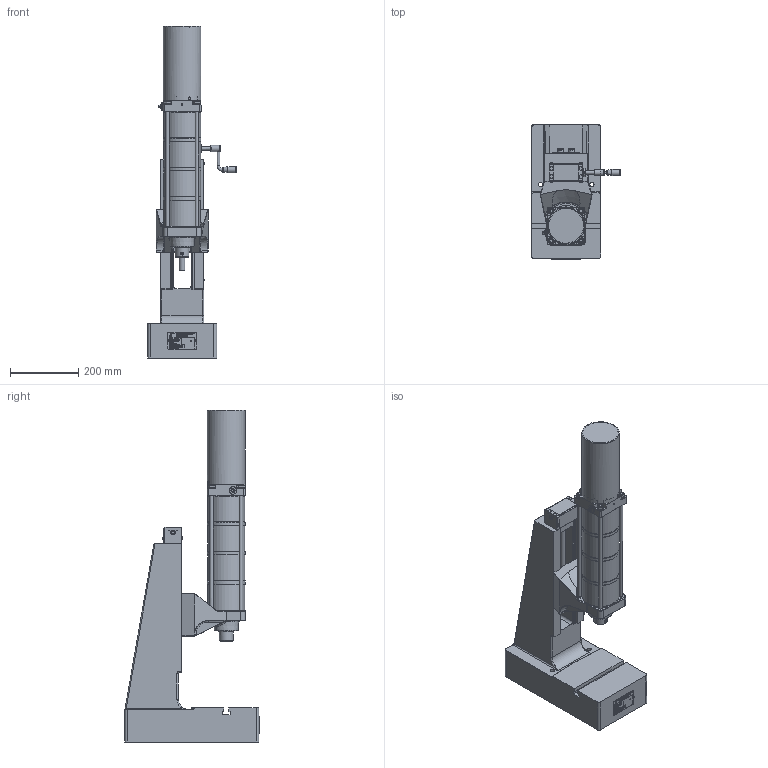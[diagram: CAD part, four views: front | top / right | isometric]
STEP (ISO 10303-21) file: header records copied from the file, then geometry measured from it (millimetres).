
FILE_DESCRIPTION(/* description */ ('Bausatz Ständer T4N HV-OST'),/* implementation_level */ '2;1');
FILE_NAME(/* name */ 'B:\02_CAD_oeffentlich\CAD_3D_oeffentlich_step\Druckluftpresse\DRP_1700_040_130.stp',/* time_stamp */ '2017-08-25T09:27:51+02:00',/* author */ ('Finsterle'),/* organization */ (''),/* preprocessor_version */ 'ST-DEVELOPER v16.1',/* originating_system */ 'Autodesk Inventor 2016',/* authorisation */ '');
FILE_SCHEMA (('AUTOMOTIVE_DESIGN { 1 0 10303 214 3 1 1 }'));
Products named in the file (5): ENG-000753-1_V; ENG-001116_V; HBF-000760; ENG-000755; HBF-001065_V
Assembly tree (5 placements, depth 2):
  HBF-001065_V
    ENG-000753-1_V
    ENG-001116_V
    HBF-000760
    ENG-000755  x2
Bounding box: 259.79 x 393.8 x 969.88 mm (x, y, z)
Volume: 12049417.2 mm3; surface area: 1626751.1 mm2
Topology: 6 solids, 16 shells, 7637 faces, 20686 edges, 13512 vertices
Faces by surface type: plane 4608, bspline 2104, cylinder 485, cone 246, torus 119, sphere 75
Full cylindrical faces by diameter (mm): 1 x1, 2 x1, 2.4 x3, 2.459 x2, 3 x7, 3.242 x7, 3.5 x2, 3.65 x4, 4 x6, 4.134 x1, 4.5 x4, 4.917 x6, 5 x3, 6.2 x4, 6.5 x2, 6.647 x1, 8 x7, 8.4 x1, 8.5 x1, 10 x7, 10.02 x1, 10.106 x2, 10.5 x12, 11.8 x2, 12 x7, 13 x4, 13.5 x4, 14 x3, 14.376 x2, 14.95 x3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
Entity records: 259158 total; most frequent: CARTESIAN_POINT 76086, ORIENTED_EDGE 40142, DIRECTION 28154, EDGE_CURVE 20058, LINE 13986, VECTOR 13986, VERTEX_POINT 13382, EDGE_LOOP 8634
